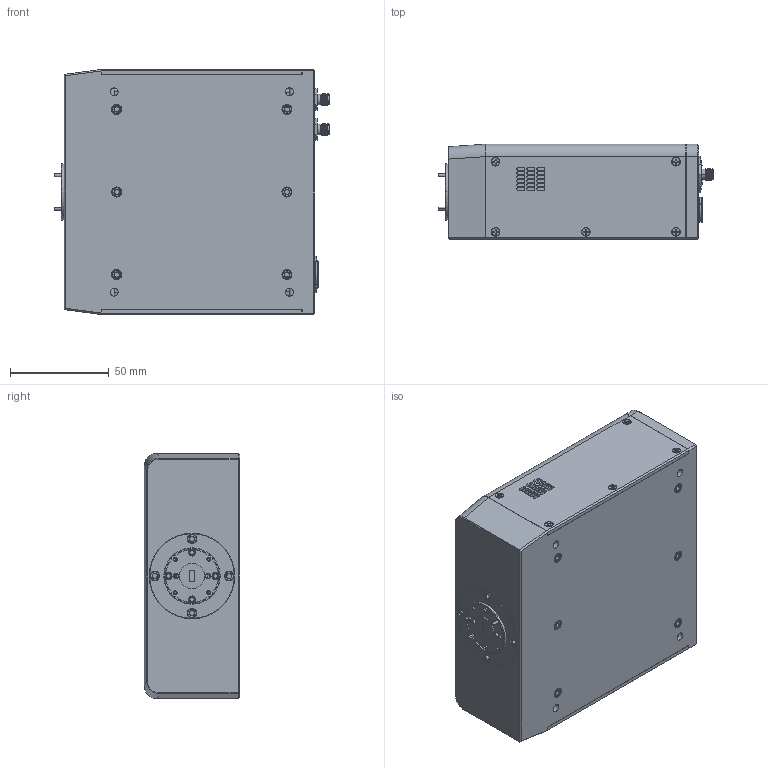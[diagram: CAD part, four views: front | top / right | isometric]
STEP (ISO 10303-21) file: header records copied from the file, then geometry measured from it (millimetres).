
FILE_DESCRIPTION (( 'STEP AP214' ), '1' );
FILE_NAME ('TC-Q-A, Defeatured, Mountable.STEP', '2024-05-15T21:56:01', ( '' ), ( '' ), 'SwSTEP 2.0', 'SolidWorks 2021', '' );
FILE_SCHEMA (( 'AUTOMOTIVE_DESIGN' ));
Length unit declared in the file: inch
Products named in the file (1): TC-Q-A, Defeatured, Mountable
Bounding box: 139.51 x 48.26 x 124.32 mm (x, y, z)
Volume: 751821 mm3; surface area: 104072.5 mm2
Topology: 3 solids, 5 shells, 1464 faces, 3864 edges, 2475 vertices
Faces by surface type: plane 715, cylinder 459, cone 275, bspline 12, torus 2, sphere 1
Entity records: 69846 total; most frequent: CARTESIAN_POINT 16221, ORIENTED_EDGE 7692, DIRECTION 7187, EDGE_CURVE 3846, AXIS2_PLACEMENT_3D 2559, VERTEX_POINT 2474, VECTOR 2069, LINE 2069
